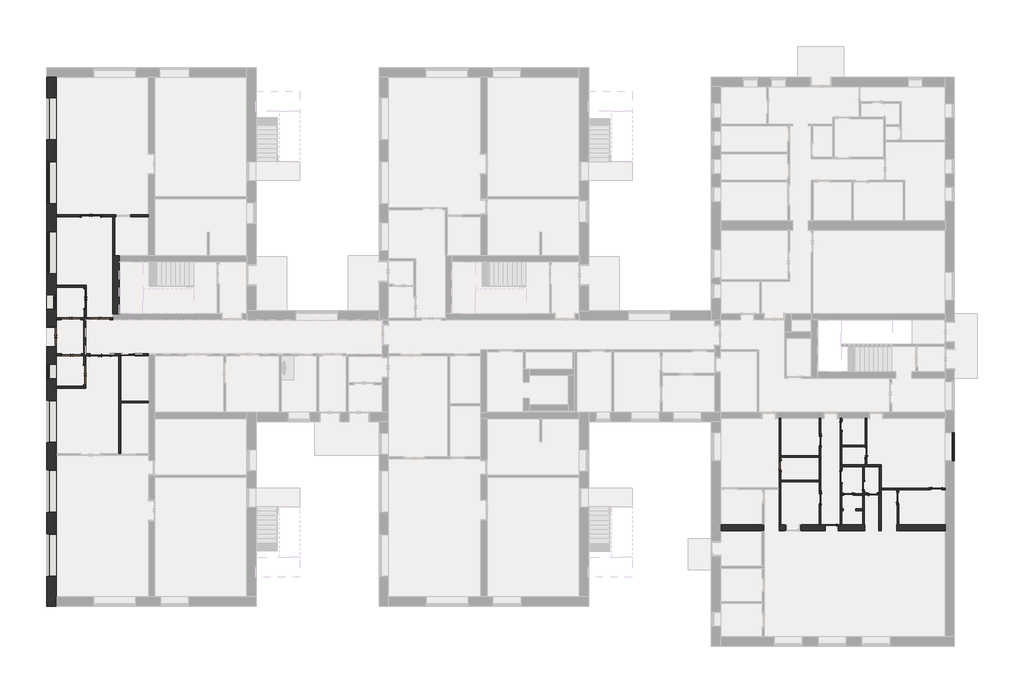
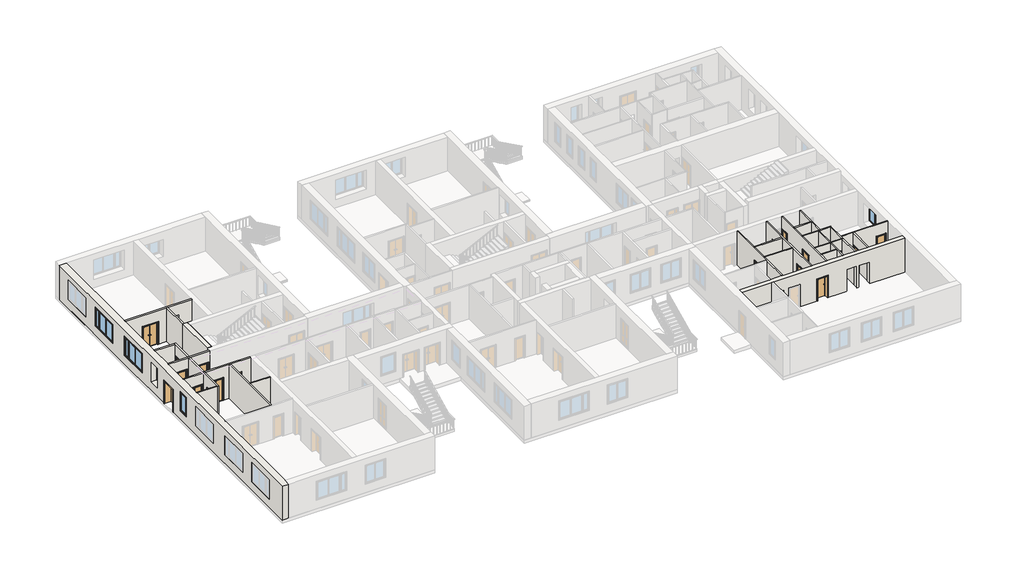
# One storey, part 2 of 10: 31 walls, 21 doors, 5 windows.
"""IFC4 building model written with IfcOpenShell, lengths in millimetres."""

from ifc_helpers import new_model, si_unit, frame, origin, origin_with_axes, place, context, project, spatial, polyline, outline, extrude, faceted_brep, transform, mapped, element, save
from components import door_6cda5d05, door_47037448, door_88bcb1ed, door_bac351b1, door_4404b6de, door_7940dafd, door_87bbec6c, door_8e71c86a, door_77306523, window_630a9bb4, window_e44eff39, window_310a172f

model = new_model("IFC4")

# Units and contexts
model_context = context("Model", 3, world=origin())
ifc_project = project(units=[si_unit("LENGTHUNIT", "METRE", prefix="MILLI")], contexts=[model_context])

# Site, building, storey
site = spatial("IfcSite", under=ifc_project)
building = spatial("IfcBuilding", under=site)
storey = spatial("IfcBuildingStorey", under=building, Name="1 этаж", Elevation=0.0)

# Doors
placement = place(None, origin())
door_shape = door_6cda5d05(model_context)
element("IfcDoor", 1, ObjectType="Наружная дверь 2-Навесная - Один проем наружу с порогом - 31173-2003 : ДСН ДКН М2 2100-1300 ГОСТ 31173-2003", at=placement, inside=storey, context=model_context, shape_type="MappedRepresentation", body=[
    mapped(door_shape, transform((-35569.8240021, 13007.1370105, 0.0), x_axis=(-1.0, 0.0, 0.0), y_axis=(0.0, -1.0, 0.0), z_axis=(0.0, 0.0, 1.0))),
])
element("IfcDoor", 2, ObjectType="Наружная дверь 2-Навесная - Один проем наружу с порогом - 31173-2003 : ДСН ДКН М2 2100-1300 ГОСТ 31173-2003", at=placement, inside=storey, context=model_context, shape_type="MappedRepresentation", body=[
    mapped(door_shape, transform((-35944.8240021, 7612.1370105, 0.0), x_axis=(0.0, 1.0, 0.0), y_axis=(-1.0, 0.0, 0.0), z_axis=(0.0, 0.0, 1.0))),
])
element("IfcDoor", 3, ObjectType="Наружная дверь 2-Навесная - Один проем наружу с порогом - 31173-2003 : ДСН ДКН М2 2100-1300 ГОСТ 31173-2003", at=placement, inside=storey, context=model_context, shape_type="MappedRepresentation", body=[
    mapped(door_shape, transform((-36859.8240021, 6307.1370105, 0.0), x_axis=(-1.0, 0.0, 0.0), y_axis=(0.0, -1.0, 0.0), z_axis=(0.0, 0.0, 1.0))),
])
element("IfcDoor", 4, ObjectType="Наружная дверь 2-Навесная - Один проем наружу с порогом - 31173-2003 : ДСН ДКН М2 2100-1300 ГОСТ 31173-2003", at=placement, inside=storey, context=model_context, shape_type="MappedRepresentation", body=[
    mapped(door_shape, transform((-34972.3240021, 6307.1370105, 0.0), x_axis=(-1.0, 0.0, 0.0), y_axis=(0.0, -1.0, 0.0), z_axis=(0.0, 0.0, 1.0))),
])
element("IfcDoor", 5, ObjectType="Наружная дверь 2-Навесная - Один проем наружу с порогом - 31173-2003 : ДСН ДКН М2 2100-1300 ГОСТ 31173-2003", at=placement, inside=storey, context=model_context, shape_type="MappedRepresentation", body=[
    mapped(door_shape, transform((-36837.3240021, 3962.1370105, 0.0), x_axis=(1.0, 0.0, 0.0), y_axis=(0.0, 1.0, 0.0), z_axis=(0.0, 0.0, 1.0))),
])
element("IfcDoor", 6, ObjectType="Наружная дверь 2-Навесная - Один проем наружу с порогом - 31173-2003 : ДСН ДКН М2 2100-1300 ГОСТ 31173-2003", at=placement, inside=storey, context=model_context, shape_type="MappedRepresentation", body=[
    mapped(door_shape, transform((-35974.8240021, 2637.1370105, 0.0), x_axis=(0.0, 1.0, 0.0), y_axis=(-1.0, 0.0, 0.0), z_axis=(0.0, 0.0, 1.0))),
])
door_2_shape = door_47037448(model_context)
element("IfcDoor", 7, ObjectType="Наружная дверь 2-Навесная - Один проем наружу с порогом - 31173-2003 : ДСН ДКН М2 2100-1300 ГОСТ 31173-2003", at=placement, inside=storey, context=model_context, shape_type="MappedRepresentation", body=[
    mapped(door_2_shape, transform((-38137.3240021, 5134.6370105, 0.0), x_axis=(0.0, 1.0, 0.0), y_axis=(-1.0, 0.0, 0.0), z_axis=(0.0, 0.0, 1.0))),
])
door_3_shape = door_88bcb1ed(model_context)
element("IfcDoor", 8, ObjectType="Наружная дверь 2-Навесная - Один проем наружу с порогом - 31173-2003 : ДСН ДКН М2 2100-1300 ГОСТ 31173-2003", at=placement, inside=storey, context=model_context, shape_type="MappedRepresentation", body=[
    mapped(door_3_shape, transform((-34974.8240021, 3957.1370105, 0.0), x_axis=(1.0, 0.0, 0.0), y_axis=(0.0, 1.0, 0.0), z_axis=(0.0, 0.0, 1.0))),
])
door_4_shape = door_bac351b1(model_context)
element("IfcDoor", 9, ObjectType="Внутренняя дверь 1-Навесная - 30970-2002 : ДПВ Г Б Л 2100-870 ГОСТ 30970-2002", at=placement, inside=storey, context=model_context, shape_type="MappedRepresentation", body=[
    mapped(door_4_shape, transform((-33139.8240021, 3948.1370105, 0.0), x_axis=(1.0, 0.0, 0.0), y_axis=(0.0, 1.0, 0.0), z_axis=(0.0, 0.0, 1.0))),
])
door_5_shape = door_4404b6de(model_context)
element("IfcDoor", 10, ObjectType="Внутренняя дверь 1-Навесная - 6629-88 : ДГ 21-7  ГОСТ 6629-88", at=placement, inside=storey, context=model_context, shape_type="MappedRepresentation", body=[
    mapped(door_5_shape, transform((9322.6759979, -3265.3629895, 0.0), x_axis=(0.0, 1.0, 0.0), y_axis=(-1.0, 0.0, 0.0), z_axis=(0.0, 0.0, 1.0))),
])
element("IfcDoor", 11, ObjectType="Внутренняя дверь 1-Навесная - 6629-88 : ДГ 21-7  ГОСТ 6629-88", at=placement, inside=storey, context=model_context, shape_type="MappedRepresentation", body=[
    mapped(door_5_shape, transform((14757.6759979, -4605.3629895, 0.0), x_axis=(0.0, 1.0, 0.0), y_axis=(-1.0, 0.0, 0.0), z_axis=(0.0, 0.0, 1.0))),
])
door_6_shape = door_7940dafd(model_context)
element("IfcDoor", 12, ObjectType="Внутренняя дверь 1-Навесная - 6629-88 : ДГ 21-8  ГОСТ 6629-88", at=placement, inside=storey, context=model_context, shape_type="MappedRepresentation", body=[
    mapped(door_6_shape, transform((11917.6759979, -1605.3629895, 0.0), x_axis=(0.0, -1.0, 0.0), y_axis=(1.0, 0.0, 0.0), z_axis=(0.0, 0.0, 1.0))),
])
element("IfcDoor", 13, ObjectType="Внутренняя дверь 1-Навесная - 6629-88 : ДГ 21-8  ГОСТ 6629-88", at=placement, inside=storey, context=model_context, shape_type="MappedRepresentation", body=[
    mapped(door_6_shape, transform((11917.6759979, -5365.3629895, 0.0), x_axis=(0.0, -1.0, 0.0), y_axis=(1.0, 0.0, 0.0), z_axis=(0.0, 0.0, 1.0))),
])
element("IfcDoor", 14, ObjectType="Внутренняя дверь 1-Навесная - 6629-88 : ДГ 21-8  ГОСТ 6629-88", at=placement, inside=storey, context=model_context, shape_type="MappedRepresentation", body=[
    mapped(door_6_shape, transform((16987.6759979, -5365.3629895, 0.0), x_axis=(0.0, 1.0, 0.0), y_axis=(-1.0, 0.0, 0.0), z_axis=(0.0, 0.0, 1.0))),
])
element("IfcDoor", 15, ObjectType="Внутренняя дверь 1-Навесная - 6629-88 : ДГ 21-8  ГОСТ 6629-88", at=placement, inside=storey, context=model_context, shape_type="MappedRepresentation", body=[
    mapped(door_6_shape, transform((19462.6759979, -4765.3629895, 0.0), x_axis=(1.0, 0.0, 0.0), y_axis=(0.0, 1.0, 0.0), z_axis=(0.0, 0.0, 1.0))),
])
door_7_shape = door_87bbec6c(model_context)
element("IfcDoor", 16, ObjectType="Внутренняя дверь 1-Навесная - 6629-88 : ДГ 21-7  ГОСТ 6629-88", at=placement, inside=storey, context=model_context, shape_type="MappedRepresentation", body=[
    mapped(door_7_shape, transform((13287.6759979, -645.3629895, 0.0), x_axis=(0.0, -1.0, 0.0), y_axis=(1.0, 0.0, 0.0), z_axis=(0.0, 0.0, 1.0))),
])
element("IfcDoor", 17, ObjectType="Внутренняя дверь 1-Навесная - 6629-88 : ДГ 21-7  ГОСТ 6629-88", at=placement, inside=storey, context=model_context, shape_type="MappedRepresentation", body=[
    mapped(door_7_shape, transform((14907.6759979, -2405.3629895, 0.0), x_axis=(0.0, 1.0, 0.0), y_axis=(-1.0, 0.0, 0.0), z_axis=(0.0, 0.0, 1.0))),
])
element("IfcDoor", 18, ObjectType="Внутренняя дверь 1-Навесная - 6629-88 : ДГ 21-7  ГОСТ 6629-88", at=placement, inside=storey, context=model_context, shape_type="MappedRepresentation", body=[
    mapped(door_7_shape, transform((15317.6759979, -5105.3629895, 0.0), x_axis=(1.0, 0.0, 0.0), y_axis=(0.0, 1.0, 0.0), z_axis=(0.0, 0.0, 1.0))),
])
element("IfcDoor", 19, ObjectType="Внутренняя дверь 1-Навесная - 6629-88 : ДГ 21-7  ГОСТ 6629-88", at=placement, inside=storey, context=model_context, shape_type="MappedRepresentation", body=[
    mapped(door_7_shape, transform((13787.6759979, -5125.3629895, 0.0), x_axis=(-1.0, 0.0, 0.0), y_axis=(0.0, -1.0, 0.0), z_axis=(0.0, 0.0, 1.0))),
])
door_8_shape = door_8e71c86a(model_context)
element("IfcDoor", 20, ObjectType="Внутренняя дверь 1-Навесная - 6629-88 : ДГ 21-9  ГОСТ 6629-88", at=placement, inside=storey, context=model_context, shape_type="MappedRepresentation", body=[
    mapped(door_8_shape, transform((13287.6759979, -3945.3629895, 0.0), x_axis=(0.0, -1.0, 0.0), y_axis=(1.0, 0.0, 0.0), z_axis=(0.0, 0.0, 1.0))),
])
door_9_shape = door_77306523(model_context)
element("IfcDoor", 21, ObjectType="Внутренняя дверь 1-Навесная - 6629-88 : ДГ 21-9  ГОСТ 6629-88", at=placement, inside=storey, context=model_context, shape_type="MappedRepresentation", body=[
    mapped(door_9_shape, transform((12667.6759979, -7305.3629895, 0.0), x_axis=(-1.0, 0.0, 0.0), y_axis=(0.0, -1.0, 0.0), z_axis=(0.0, 0.0, 1.0))),
])

# Walls
element("IfcWall", 22, ObjectType="ADSK_Внутренняя_Кирпич_610", at=placement, inside=storey, context=model_context, shape_type="Brep", body=[
    faceted_brep([(-38442.3240021, 22034.6370105, 3200.0), (-38442.3240021, 22034.6370105, 0.0), (-38442.3240021, 5804.6370105, 0.0), (-38442.3240021, 5804.6370105, 2120.0), (-38442.3240021, 4464.6370105, 2120.0), (-38442.3240021, 4464.6370105, 0.0), (-38442.3240021, -12415.3629895, 0.0), (-38442.3240021, -12415.3629895, 3200.0), (-38442.3240021, 2412.1370105, 800.0), (-38442.3240021, 3342.1370105, 800.0), (-38442.3240021, 3342.1370105, 2620.0), (-38442.3240021, 2412.1370105, 2620.0), (-38442.3240021, 7857.1370105, 800.0), (-38442.3240021, 7857.1370105, 2620.0), (-38442.3240021, 6927.1370105, 2620.0), (-38442.3240021, 6927.1370105, 800.0), (-38442.3240021, -10455.3629895, 800.0), (-38442.3240021, -7725.3629895, 800.0), (-38442.3240021, -7725.3629895, 2620.0), (-38442.3240021, -10455.3629895, 2620.0), (-38442.3240021, -3565.3629895, 800.0), (-38442.3240021, -3565.3629895, 2620.0), (-38442.3240021, -6295.3629895, 2620.0), (-38442.3240021, -6295.3629895, 800.0), (-38442.3240021, 982.1370105, 800.0), (-38442.3240021, 982.1370105, 2620.0), (-38442.3240021, -1747.8629895, 2620.0), (-38442.3240021, -1747.8629895, 800.0), (-38442.3240021, 11977.1370105, 800.0), (-38442.3240021, 11977.1370105, 2620.0), (-38442.3240021, 9247.1370105, 2620.0), (-38442.3240021, 9247.1370105, 800.0), (-38442.3240021, 16532.1370105, 800.0), (-38442.3240021, 16532.1370105, 2620.0), (-38442.3240021, 13802.1370105, 2620.0), (-38442.3240021, 13802.1370105, 800.0), (-38442.3240021, 17954.6370105, 800.0), (-38442.3240021, 20684.6370105, 800.0), (-38442.3240021, 20684.6370105, 2620.0), (-38442.3240021, 17954.6370105, 2620.0), (-37832.3240021, 22034.6370105, 0.0), (-37832.3240021, 22034.6370105, 3200.0), (-37832.3240021, 13069.6370105, 3200.0), (-37832.3240021, 12944.6370105, 3200.0), (-37832.3240021, 8474.6370105, 3200.0), (-37832.3240021, 8349.6370105, 3200.0), (-37832.3240021, 6369.6370105, 3200.0), (-37832.3240021, 6244.6370105, 3200.0), (-37832.3240021, 4024.6370105, 3200.0), (-37832.3240021, 3899.6370105, 3200.0), (-37832.3240021, 1899.6370105, 3200.0), (-37832.3240021, 1774.6370105, 3200.0), (-37832.3240021, -11805.3629895, 3200.0), (-37832.3240021, -12415.3629895, 3200.0), (-37832.3240021, -12415.3629895, 0.0), (-37832.3240021, -11805.3629895, 0.0), (-37832.3240021, 1774.6370105, 0.0), (-37832.3240021, 1899.6370105, 0.0), (-37832.3240021, 3899.6370105, 0.0), (-37832.3240021, 4024.6370105, 0.0), (-37832.3240021, 4464.6370105, 0.0), (-37832.3240021, 4464.6370105, 2120.0), (-37832.3240021, 5804.6370105, 2120.0), (-37832.3240021, 5804.6370105, 0.0), (-37832.3240021, 6244.6370105, 0.0), (-37832.3240021, 6369.6370105, 0.0), (-37832.3240021, 8349.6370105, 0.0), (-37832.3240021, 8474.6370105, 0.0), (-37832.3240021, 12944.6370105, 0.0), (-37832.3240021, 13069.6370105, 0.0), (-37832.3240021, 2412.1370105, 800.0), (-37832.3240021, 2412.1370105, 2620.0), (-37832.3240021, 3342.1370105, 2620.0), (-37832.3240021, 3342.1370105, 800.0), (-37832.3240021, 7857.1370105, 800.0), (-37832.3240021, 6927.1370105, 800.0), (-37832.3240021, 6927.1370105, 2620.0), (-37832.3240021, 7857.1370105, 2620.0), (-37832.3240021, -10455.3629895, 800.0), (-37832.3240021, -10455.3629895, 2620.0), (-37832.3240021, -7725.3629895, 2620.0), (-37832.3240021, -7725.3629895, 800.0), (-37832.3240021, -3565.3629895, 800.0), (-37832.3240021, -6295.3629895, 800.0), (-37832.3240021, -6295.3629895, 2620.0), (-37832.3240021, -3565.3629895, 2620.0), (-37832.3240021, 982.1370105, 800.0), (-37832.3240021, -1747.8629895, 800.0), (-37832.3240021, -1747.8629895, 2620.0), (-37832.3240021, 982.1370105, 2620.0), (-37832.3240021, 11977.1370105, 800.0), (-37832.3240021, 9247.1370105, 800.0), (-37832.3240021, 9247.1370105, 2620.0), (-37832.3240021, 11977.1370105, 2620.0), (-37832.3240021, 16532.1370105, 800.0), (-37832.3240021, 13802.1370105, 800.0), (-37832.3240021, 13802.1370105, 2620.0), (-37832.3240021, 16532.1370105, 2620.0), (-37832.3240021, 17954.6370105, 800.0), (-37832.3240021, 17954.6370105, 2620.0), (-37832.3240021, 20684.6370105, 2620.0), (-37832.3240021, 20684.6370105, 800.0)], [[[0, 1, 2, 3, 4, 5, 6, 7], [8, 9, 10, 11], [12, 13, 14, 15], [16, 17, 18, 19], [20, 21, 22, 23], [24, 25, 26, 27], [28, 29, 30, 31], [32, 33, 34, 35], [36, 37, 38, 39]], [[40, 41, 42, 43, 44, 45, 46, 47, 48, 49, 50, 51, 52, 53, 54, 55, 56, 57, 58, 59, 60, 61, 62, 63, 64, 65, 66, 67, 68, 69], [70, 71, 72, 73], [74, 75, 76, 77], [78, 79, 80, 81], [82, 83, 84, 85], [86, 87, 88, 89], [90, 91, 92, 93], [94, 95, 96, 97], [98, 99, 100, 101]], [[1, 40, 69, 68, 67, 66, 65, 64, 63, 2]], [[54, 6, 5, 60, 59, 58, 57, 56, 55]], [[1, 0, 41, 40]], [[7, 6, 54, 53]], [[62, 3, 2, 63]], [[3, 62, 61, 4]], [[4, 61, 60, 5]], [[71, 70, 8, 11]], [[72, 71, 11, 10]], [[73, 72, 10, 9]], [[70, 73, 9, 8]], [[13, 12, 74, 77]], [[14, 13, 77, 76]], [[15, 14, 76, 75]], [[12, 15, 75, 74]], [[79, 78, 16, 19]], [[80, 79, 19, 18]], [[81, 80, 18, 17]], [[78, 81, 17, 16]], [[21, 20, 82, 85]], [[22, 21, 85, 84]], [[23, 22, 84, 83]], [[20, 23, 83, 82]], [[25, 24, 86, 89]], [[26, 25, 89, 88]], [[27, 26, 88, 87]], [[24, 27, 87, 86]], [[29, 28, 90, 93]], [[30, 29, 93, 92]], [[31, 30, 92, 91]], [[28, 31, 91, 90]], [[33, 32, 94, 97]], [[34, 33, 97, 96]], [[35, 34, 96, 95]], [[32, 35, 95, 94]], [[99, 98, 36, 39]], [[100, 99, 39, 38]], [[101, 100, 38, 37]], [[98, 101, 37, 36]], [[0, 7, 53, 52, 51, 50, 49, 48, 47, 46, 45, 44, 43, 42, 41]]]),
])
element("IfcWall", 23, ObjectType="ADSK_Внутренняя_Кирпич_380+20х2", at=placement, inside=storey, context=model_context, shape_type="Brep", body=[
    faceted_brep([(-33712.3240021, 6644.6370105, 0.0), (-33712.3240021, 10004.6370105, 0.0), (-33712.3240021, 10424.6370105, 0.0), (-33712.3240021, 10424.6370105, 3200.0), (-33712.3240021, 10004.6370105, 3200.0), (-33712.3240021, 6644.6370105, 3200.0), (-34132.3240021, 6644.6370105, 0.0), (-34132.3240021, 6644.6370105, 3200.0), (-34132.3240021, 10424.6370105, 3200.0), (-34132.3240021, 10424.6370105, 0.0), (-34007.3240021, 10424.6370105, 0.0), (-33712.7240021, 6644.6370105, 3200.0), (-34007.3240021, 10424.6370105, 3200.0), (-33712.7240021, 10424.6370105, 3200.0), (-33712.7240021, 10004.6370105, 3200.0)], [[[0, 1, 2, 3, 4, 5]], [[6, 7, 8, 9]], [[2, 1, 0, 6, 9, 10]], [[0, 5, 11, 7, 6]], [[3, 2, 10, 9, 8, 12, 13]], [[5, 4, 3, 13, 14, 11]], [[13, 12, 8, 7, 11, 14]]]),
])
element("IfcWall", 24, ObjectType="ADSK_Внутренняя_Перегородка_135", at=placement, inside=storey, context=model_context, shape_type="Brep", body=[
    faceted_brep([(-33632.3240021, -2470.3629895, 0.0), (-33632.3240021, 829.6370105, 0.0), (-33632.3240021, 929.6370105, 0.0), (-33632.3240021, 3889.6370105, 0.0), (-33632.3240021, 3889.6370105, 3200.0), (-33632.3240021, 929.6370105, 3200.0), (-33632.3240021, 829.6370105, 3200.0), (-33632.3240021, -2470.3629895, 3200.0), (-33767.3240021, -2470.3629895, 0.0), (-33767.3240021, -2470.3629895, 3200.0), (-33767.3240021, 3889.6370105, 3200.0), (-33767.3240021, 3889.6370105, 0.0)], [[[0, 1, 2, 3, 4, 5, 6, 7]], [[8, 9, 10, 11]], [[3, 2, 1, 0, 8, 11]], [[0, 7, 9, 8]], [[4, 3, 11, 10]], [[7, 6, 5, 4, 10, 9]]]),
])
element("IfcWall", 25, ObjectType="ADSK_Внутренняя_Перегородка_100", at=placement, inside=storey, context=model_context, shape_type="SweptSolid", body=[
    extrude(outline(polyline([(-33632.3240021, 929.6370105), (-31812.3240021, 929.6370105), (-31812.3240021, 829.6370105), (-33632.3240021, 829.6370105), (-33632.3240021, 929.6370105)])), origin_with_axes(), (0.0, 0.0, 1.0), 3200.0),
])
element("IfcWall", 26, ObjectType="ADSK_Внутренняя_Перегородка_135", at=placement, inside=storey, context=model_context, shape_type="Brep", body=[
    faceted_brep([(-31812.3240021, 3889.6370105, 0.0), (-31812.3240021, 3889.6370105, 3200.0), (-33632.3240021, 3889.6370105, 3200.0), (-33767.3240021, 3889.6370105, 3200.0), (-35912.3240021, 3889.6370105, 3200.0), (-35912.3240021, 3889.6370105, 0.0), (-35644.8240021, 3889.6370105, 0.0), (-35644.8240021, 3889.6370105, 2120.0), (-34304.8240021, 3889.6370105, 2120.0), (-34304.8240021, 3889.6370105, 0.0), (-33767.3240021, 3889.6370105, 0.0), (-33632.3240021, 3889.6370105, 0.0), (-33624.8240021, 3889.6370105, 0.0), (-33624.8240021, 3889.6370105, 2150.0), (-32654.8240021, 3889.6370105, 2150.0), (-32654.8240021, 3889.6370105, 0.0), (-31812.3240021, 4024.6370105, 3200.0), (-31812.3240021, 4024.6370105, 0.0), (-32654.8240021, 4024.6370105, 0.0), (-32654.8240021, 4024.6370105, 2150.0), (-33624.8240021, 4024.6370105, 2150.0), (-33624.8240021, 4024.6370105, 0.0), (-34304.8240021, 4024.6370105, 0.0), (-34304.8240021, 4024.6370105, 2120.0), (-35644.8240021, 4024.6370105, 2120.0), (-35644.8240021, 4024.6370105, 0.0), (-35897.3240021, 4024.6370105, 0.0), (-35912.3240021, 4024.6370105, 0.0), (-35912.3240021, 4024.6370105, 3200.0), (-35897.3240021, 4024.6370105, 3200.0)], [[[0, 1, 2, 3, 4, 5, 6, 7, 8, 9, 10, 11, 12, 13, 14, 15]], [[16, 17, 18, 19, 20, 21, 22, 23, 24, 25, 26, 27, 28, 29]], [[17, 0, 15, 18]], [[5, 27, 26, 25, 6]], [[9, 22, 21, 12, 11, 10]], [[1, 0, 17, 16]], [[5, 4, 28, 27]], [[8, 23, 22, 9]], [[23, 8, 7, 24]], [[24, 7, 6, 25]], [[14, 19, 18, 15]], [[19, 14, 13, 20]], [[20, 13, 12, 21]], [[4, 3, 2, 1, 16, 29, 28]]]),
])
element("IfcWall", 27, ObjectType="ADSK_Внутренняя_Перегородка_125", at=placement, inside=storey, context=model_context, shape_type="Brep", body=[
    faceted_brep([(-35912.3240021, 4024.6370105, 0.0), (-35912.3240021, 4024.6370105, 3200.0), (-35912.3240021, 3889.6370105, 3200.0), (-35912.3240021, 1774.6370105, 3200.0), (-35912.3240021, 1774.6370105, 0.0), (-35912.3240021, 1967.1370105, 0.0), (-35912.3240021, 1967.1370105, 2120.0), (-35912.3240021, 3307.1370105, 2120.0), (-35912.3240021, 3307.1370105, 0.0), (-35912.3240021, 3889.6370105, 0.0), (-36037.3240021, 4024.6370105, 3200.0), (-36037.3240021, 4024.6370105, 0.0), (-36037.3240021, 3899.6370105, 0.0), (-36037.3240021, 3307.1370105, 0.0), (-36037.3240021, 3307.1370105, 2120.0), (-36037.3240021, 1967.1370105, 2120.0), (-36037.3240021, 1967.1370105, 0.0), (-36037.3240021, 1899.6370105, 0.0), (-36037.3240021, 1774.6370105, 0.0), (-36037.3240021, 1774.6370105, 3200.0), (-36037.3240021, 1899.6370105, 3200.0), (-36037.3240021, 3899.6370105, 3200.0), (-36022.3240021, 4024.6370105, 0.0), (-36022.3240021, 4024.6370105, 3200.0)], [[[0, 1, 2, 3, 4, 5, 6, 7, 8, 9]], [[10, 11, 12, 13, 14, 15, 16, 17, 18, 19, 20, 21]], [[4, 18, 17, 16, 5]], [[11, 22, 0, 9, 8, 13, 12]], [[1, 0, 22, 11, 10, 23]], [[4, 3, 19, 18]], [[7, 14, 13, 8]], [[14, 7, 6, 15]], [[15, 6, 5, 16]], [[3, 2, 1, 23, 10, 21, 20, 19]]]),
])
element("IfcWall", 28, ObjectType="ADSK_Внутренняя_Перегородка_125", at=placement, inside=storey, context=model_context, shape_type="SweptSolid", body=[
    extrude(outline(polyline([(0.0, -36037.3240021), (3200.0, -36037.3240021), (3200.0, -37832.3240021), (0.0, -37832.3240021), (0.0, -37507.3240021), (2120.0, -37507.3240021), (2120.0, -36167.3240021), (0.0, -36167.3240021), (0.0, -36037.3240021)])), frame((0.0, 3899.6370105, 0.0), z_axis=(0.0, 1.0, 0.0), x_axis=(0.0, 0.0, 1.0)), (0.0, 0.0, 1.0), 125.0),
])
element("IfcWall", 29, ObjectType="ADSK_Внутренняя_Перегородка_125", at=placement, inside=storey, context=model_context, shape_type="SweptSolid", body=[
    extrude(outline(polyline([(-37832.3240021, 1899.6370105), (-36037.3240021, 1899.6370105), (-36037.3240021, 1774.6370105), (-37832.3240021, 1774.6370105), (-37832.3240021, 1899.6370105)])), origin_with_axes(), (0.0, 0.0, 1.0), 3200.0),
])
element("IfcWall", 30, ObjectType="ADSK_Внутренняя_Перегородка_125", at=placement, inside=storey, context=model_context, shape_type="Brep", body=[
    faceted_brep([(-35897.3240021, 4024.6370105, 0.0), (-35897.3240021, 6244.6370105, 0.0), (-35897.3240021, 6244.6370105, 3200.0), (-35897.3240021, 4024.6370105, 3200.0), (-36022.3240021, 4024.6370105, 0.0), (-36022.3240021, 4024.6370105, 3200.0), (-36022.3240021, 6244.6370105, 3200.0), (-36022.3240021, 6244.6370105, 0.0), (-35912.3240021, 4024.6370105, 0.0), (-35912.3240021, 4024.6370105, 3200.0)], [[[0, 1, 2, 3]], [[4, 5, 6, 7]], [[1, 0, 8, 4, 7]], [[0, 3, 9, 5, 4, 8]], [[2, 1, 7, 6]], [[3, 2, 6, 5, 9]]]),
])
element("IfcWall", 31, ObjectType="ADSK_Внутренняя_Перегородка_75_25x2", at=placement, inside=storey, context=model_context, shape_type="Brep", body=[
    faceted_brep([(-37832.3240021, 6244.6370105, 3200.0), (-37832.3240021, 6244.6370105, 0.0), (-37529.8240021, 6244.6370105, 0.0), (-37529.8240021, 6244.6370105, 2120.0), (-36189.8240021, 6244.6370105, 2120.0), (-36189.8240021, 6244.6370105, 0.0), (-36022.3240021, 6244.6370105, 0.0), (-35897.3240021, 6244.6370105, 0.0), (-35642.3240021, 6244.6370105, 0.0), (-35642.3240021, 6244.6370105, 2120.0), (-34302.3240021, 6244.6370105, 2120.0), (-34302.3240021, 6244.6370105, 0.0), (-34132.3240021, 6244.6370105, 0.0), (-34132.3240021, 6244.6370105, 3200.0), (-35897.3240021, 6244.6370105, 3200.0), (-36022.3240021, 6244.6370105, 3200.0), (-37832.3240021, 6369.6370105, 0.0), (-37832.3240021, 6369.6370105, 3200.0), (-36007.3240021, 6369.6370105, 3200.0), (-35882.3240021, 6369.6370105, 3200.0), (-34132.3240021, 6369.6370105, 3200.0), (-34132.3240021, 6369.6370105, 0.0), (-34302.3240021, 6369.6370105, 0.0), (-34302.3240021, 6369.6370105, 2120.0), (-35642.3240021, 6369.6370105, 2120.0), (-35642.3240021, 6369.6370105, 0.0), (-35882.3240021, 6369.6370105, 0.0), (-36007.3240021, 6369.6370105, 0.0), (-36189.8240021, 6369.6370105, 0.0), (-36189.8240021, 6369.6370105, 2120.0), (-37529.8240021, 6369.6370105, 2120.0), (-37529.8240021, 6369.6370105, 0.0)], [[[0, 1, 2, 3, 4, 5, 6, 7, 8, 9, 10, 11, 12, 13, 14, 15]], [[16, 17, 18, 19, 20, 21, 22, 23, 24, 25, 26, 27, 28, 29, 30, 31]], [[1, 16, 31, 2]], [[21, 12, 11, 22]], [[5, 28, 27, 26, 25, 8, 7, 6]], [[1, 0, 17, 16]], [[13, 12, 21, 20]], [[30, 3, 2, 31]], [[3, 30, 29, 4]], [[4, 29, 28, 5]], [[24, 9, 8, 25]], [[9, 24, 23, 10]], [[10, 23, 22, 11]], [[0, 15, 14, 13, 20, 19, 18, 17]]]),
])
element("IfcWall", 32, ObjectType="ADSK_Внутренняя_Перегородка_75_25x2", at=placement, inside=storey, context=model_context, shape_type="Brep", body=[
    faceted_brep([(-35882.3240021, 6369.6370105, 3200.0), (-35882.3240021, 6369.6370105, 0.0), (-35882.3240021, 6942.1370105, 0.0), (-35882.3240021, 6942.1370105, 2120.0), (-35882.3240021, 8282.1370105, 2120.0), (-35882.3240021, 8282.1370105, 0.0), (-35882.3240021, 8474.6370105, 0.0), (-35882.3240021, 8474.6370105, 3200.0), (-36007.3240021, 6369.6370105, 0.0), (-36007.3240021, 6369.6370105, 3200.0), (-36007.3240021, 8349.6370105, 3200.0), (-36007.3240021, 8474.6370105, 3200.0), (-36007.3240021, 8474.6370105, 0.0), (-36007.3240021, 8349.6370105, 0.0), (-36007.3240021, 8282.1370105, 0.0), (-36007.3240021, 8282.1370105, 2120.0), (-36007.3240021, 6942.1370105, 2120.0), (-36007.3240021, 6942.1370105, 0.0)], [[[0, 1, 2, 3, 4, 5, 6, 7]], [[8, 9, 10, 11, 12, 13, 14, 15, 16, 17]], [[1, 8, 17, 2]], [[12, 6, 5, 14, 13]], [[1, 0, 9, 8]], [[7, 6, 12, 11]], [[4, 15, 14, 5]], [[15, 4, 3, 16]], [[16, 3, 2, 17]], [[0, 7, 11, 10, 9]]]),
])
element("IfcWall", 33, ObjectType="ADSK_Внутренняя_Перегородка_75_25x2", at=placement, inside=storey, context=model_context, shape_type="SweptSolid", body=[
    extrude(outline(polyline([(-37832.3240021, 8474.6370105), (-36007.3240021, 8474.6370105), (-36007.3240021, 8349.6370105), (-37832.3240021, 8349.6370105), (-37832.3240021, 8474.6370105)])), origin_with_axes(), (0.0, 0.0, 1.0), 3200.0),
])
element("IfcWall", 34, ObjectType="ADSK_Внутренняя_Перегородка_75_25x2", at=placement, inside=storey, context=model_context, shape_type="Brep", body=[
    faceted_brep([(-37832.3240021, 12944.6370105, 3200.0), (-37832.3240021, 12944.6370105, 0.0), (-36239.8240021, 12944.6370105, 0.0), (-36239.8240021, 12944.6370105, 2120.0), (-34899.8240021, 12944.6370105, 2120.0), (-34899.8240021, 12944.6370105, 0.0), (-34132.3240021, 12944.6370105, 0.0), (-34007.3240021, 12944.6370105, 0.0), (-33954.8240021, 12944.6370105, 0.0), (-33954.8240021, 12944.6370105, 2150.0), (-32984.8240021, 12944.6370105, 2150.0), (-32984.8240021, 12944.6370105, 0.0), (-31832.3240021, 12944.6370105, 0.0), (-31832.3240021, 12944.6370105, 3200.0), (-34007.3240021, 12944.6370105, 3200.0), (-34132.3240021, 12944.6370105, 3200.0), (-37832.3240021, 13069.6370105, 0.0), (-37832.3240021, 13069.6370105, 3200.0), (-31832.3240021, 13069.6370105, 3200.0), (-31832.3240021, 13069.6370105, 0.0), (-32984.8240021, 13069.6370105, 0.0), (-32984.8240021, 13069.6370105, 2150.0), (-33954.8240021, 13069.6370105, 2150.0), (-33954.8240021, 13069.6370105, 0.0), (-34899.8240021, 13069.6370105, 0.0), (-34899.8240021, 13069.6370105, 2120.0), (-36239.8240021, 13069.6370105, 2120.0), (-36239.8240021, 13069.6370105, 0.0)], [[[0, 1, 2, 3, 4, 5, 6, 7, 8, 9, 10, 11, 12, 13, 14, 15]], [[16, 17, 18, 19, 20, 21, 22, 23, 24, 25, 26, 27]], [[1, 16, 27, 2]], [[19, 12, 11, 20]], [[5, 24, 23, 8, 7, 6]], [[1, 0, 17, 16]], [[13, 12, 19, 18]], [[26, 3, 2, 27]], [[3, 26, 25, 4]], [[4, 25, 24, 5]], [[0, 15, 14, 13, 18, 17]], [[10, 21, 20, 11]], [[21, 10, 9, 22]], [[22, 9, 8, 23]]]),
])
element("IfcWall", 35, ObjectType="ADSK_Внутренняя_Перегородка_75_25x2", at=placement, inside=storey, context=model_context, shape_type="SweptSolid", body=[
    extrude(outline(polyline([(-34007.3240021, 12944.6370105), (-34007.3240021, 10424.6370105), (-34132.3240021, 10424.6370105), (-34132.3240021, 12944.6370105), (-34007.3240021, 12944.6370105)])), origin_with_axes(), (0.0, 0.0, 1.0), 3200.0),
])
element("IfcWall", 36, ObjectType="ADSK_Внутренняя_Перегородка_100", at=placement, inside=storey, context=model_context, shape_type="Brep", body=[
    faceted_brep([(11867.6759979, -175.3629895, 3200.0), (11867.6759979, -175.3629895, 0.0), (11867.6759979, -1200.3629895, 0.0), (11867.6759979, -1200.3629895, 2070.0), (11867.6759979, -2010.3629895, 2070.0), (11867.6759979, -2010.3629895, 0.0), (11867.6759979, -2615.3629895, 0.0), (11867.6759979, -2715.3629895, 0.0), (11867.6759979, -4195.3629895, 0.0), (11867.6759979, -4295.3629895, 0.0), (11867.6759979, -4960.3629895, 0.0), (11867.6759979, -4960.3629895, 2070.0), (11867.6759979, -5770.3629895, 2070.0), (11867.6759979, -5770.3629895, 0.0), (11867.6759979, -7115.3629895, 0.0), (11867.6759979, -7115.3629895, 3200.0), (11867.6759979, -4295.3629895, 3200.0), (11867.6759979, -4195.3629895, 3200.0), (11867.6759979, -2715.3629895, 3200.0), (11867.6759979, -2615.3629895, 3200.0), (11967.6759979, -175.3629895, 0.0), (11967.6759979, -175.3629895, 3200.0), (11967.6759979, -7115.3629895, 3200.0), (11967.6759979, -7115.3629895, 0.0), (11967.6759979, -5770.3629895, 0.0), (11967.6759979, -5770.3629895, 2070.0), (11967.6759979, -4960.3629895, 2070.0), (11967.6759979, -4960.3629895, 0.0), (11967.6759979, -2010.3629895, 0.0), (11967.6759979, -2010.3629895, 2070.0), (11967.6759979, -1200.3629895, 2070.0), (11967.6759979, -1200.3629895, 0.0)], [[[0, 1, 2, 3, 4, 5, 6, 7, 8, 9, 10, 11, 12, 13, 14, 15, 16, 17, 18, 19]], [[20, 21, 22, 23, 24, 25, 26, 27, 28, 29, 30, 31]], [[1, 20, 31, 2]], [[23, 14, 13, 24]], [[5, 28, 27, 10, 9, 8, 7, 6]], [[1, 0, 21, 20]], [[15, 14, 23, 22]], [[4, 29, 28, 5]], [[29, 4, 3, 30]], [[30, 3, 2, 31]], [[12, 25, 24, 13]], [[25, 12, 11, 26]], [[26, 11, 10, 27]], [[0, 19, 18, 17, 16, 15, 22, 21]]]),
])
element("IfcWall", 37, ObjectType="ADSK_Внутренняя_Перегородка_100", at=placement, inside=storey, context=model_context, shape_type="SweptSolid", body=[
    extrude(outline(polyline([(9372.6759979, -4195.3629895), (11867.6759979, -4195.3629895), (11867.6759979, -4295.3629895), (9372.6759979, -4295.3629895), (9372.6759979, -4195.3629895)])), origin_with_axes(), (0.0, 0.0, 1.0), 3200.0),
])
element("IfcWall", 38, ObjectType="ADSK_Внутренняя_Перегородка_100", at=placement, inside=storey, context=model_context, shape_type="Brep", body=[
    faceted_brep([(9272.6759979, -175.3629895, 3200.0), (9272.6759979, -175.3629895, 0.0), (9272.6759979, -2910.3629895, 0.0), (9272.6759979, -2910.3629895, 2070.0), (9272.6759979, -3620.3629895, 2070.0), (9272.6759979, -3620.3629895, 0.0), (9272.6759979, -4695.3629895, 0.0), (9272.6759979, -4795.3629895, 0.0), (9272.6759979, -7115.3629895, 0.0), (9272.6759979, -7115.3629895, 2070.0), (9272.6759979, -7115.3629895, 3200.0), (9272.6759979, -4795.3629895, 3200.0), (9272.6759979, -4695.3629895, 3200.0), (9372.6759979, -175.3629895, 0.0), (9372.6759979, -175.3629895, 3200.0), (9372.6759979, -2615.3629895, 3200.0), (9372.6759979, -2715.3629895, 3200.0), (9372.6759979, -4195.3629895, 3200.0), (9372.6759979, -4295.3629895, 3200.0), (9372.6759979, -7115.3629895, 3200.0), (9372.6759979, -7115.3629895, 0.0), (9372.6759979, -4295.3629895, 0.0), (9372.6759979, -4195.3629895, 0.0), (9372.6759979, -3620.3629895, 0.0), (9372.6759979, -3620.3629895, 2070.0), (9372.6759979, -2910.3629895, 2070.0), (9372.6759979, -2910.3629895, 0.0), (9372.6759979, -2715.3629895, 0.0), (9372.6759979, -2615.3629895, 0.0)], [[[0, 1, 2, 3, 4, 5, 6, 7, 8, 9, 10, 11, 12]], [[13, 14, 15, 16, 17, 18, 19, 20, 21, 22, 23, 24, 25, 26, 27, 28]], [[1, 13, 28, 27, 26, 2]], [[20, 8, 7, 6, 5, 23, 22, 21]], [[1, 0, 14, 13]], [[10, 9, 8, 20, 19]], [[25, 3, 2, 26]], [[3, 25, 24, 4]], [[4, 24, 23, 5]], [[0, 12, 11, 10, 19, 18, 17, 16, 15, 14]]]),
])
element("IfcWall", 39, ObjectType="ADSK_Внутренняя_Перегородка_100", at=placement, inside=storey, context=model_context, shape_type="SweptSolid", body=[
    extrude(outline(polyline([(11867.6759979, -2715.3629895), (9372.6759979, -2715.3629895), (9372.6759979, -2615.3629895), (11867.6759979, -2615.3629895), (11867.6759979, -2715.3629895)])), origin_with_axes(), (0.0, 0.0, 1.0), 3200.0),
])
element("IfcWall", 40, ObjectType="ADSK_Внутренняя_Кирпич_380", at=placement, inside=storey, context=model_context, shape_type="Brep", body=[
    faceted_brep([(16908.9259979, -7495.3629895, 2070.0), (16908.9259979, -7495.3629895, 0.0), (20057.6759979, -7495.3629895, 0.0), (20057.6759979, -7495.3629895, 3200.0), (8267.6759979, -7495.3629895, 3200.0), (8117.6759979, -7495.3629895, 3200.0), (5447.6759979, -7495.3629895, 3200.0), (5447.6759979, -7495.3629895, 0.0), (8117.6759979, -7495.3629895, 0.0), (8262.6759979, -7495.3629895, 0.0), (8262.6759979, -7495.3629895, 2070.0), (9272.6759979, -7495.3629895, 2070.0), (9272.6759979, -7495.3629895, 0.0), (9702.6759979, -7495.3629895, 0.0), (9702.6759979, -7495.3629895, 2070.0), (10612.6759979, -7495.3629895, 2070.0), (10612.6759979, -7495.3629895, 0.0), (12212.6759979, -7495.3629895, 0.0), (12212.6759979, -7495.3629895, 2070.0), (13122.6759979, -7495.3629895, 2070.0), (13122.6759979, -7495.3629895, 0.0), (14833.9259979, -7495.3629895, 0.0), (14833.9259979, -7495.3629895, 2070.0), (15743.9259979, -7495.3629895, 2070.0), (15743.9259979, -7495.3629895, 0.0), (15898.9259979, -7495.3629895, 0.0), (15898.9259979, -7495.3629895, 2070.0), (20057.6759979, -7115.3629895, 0.0), (17037.6759979, -7115.3629895, 0.0), (16937.6759979, -7115.3629895, 0.0), (16908.9259979, -7115.3629895, 0.0), (16908.9259979, -7115.3629895, 2070.0), (15898.9259979, -7115.3629895, 2070.0), (15898.9259979, -7115.3629895, 0.0), (15887.6759979, -7115.3629895, 0.0), (15752.6759979, -7115.3629895, 0.0), (15743.9259979, -7115.3629895, 0.0), (15743.9259979, -7115.3629895, 2070.0), (14833.9259979, -7115.3629895, 2070.0), (14833.9259979, -7115.3629895, 0.0), (14807.6759979, -7115.3629895, 0.0), (14707.6759979, -7115.3629895, 0.0), (13337.6759979, -7115.3629895, 0.0), (13237.6759979, -7115.3629895, 0.0), (13122.6759979, -7115.3629895, 0.0), (13122.6759979, -7115.3629895, 2070.0), (12212.6759979, -7115.3629895, 2070.0), (12212.6759979, -7115.3629895, 0.0), (11967.6759979, -7115.3629895, 0.0), (11867.6759979, -7115.3629895, 0.0), (10612.6759979, -7115.3629895, 0.0), (10612.6759979, -7115.3629895, 2070.0), (9702.6759979, -7115.3629895, 2070.0), (9702.6759979, -7115.3629895, 0.0), (9372.6759979, -7115.3629895, 0.0), (9272.6759979, -7115.3629895, 0.0), (9272.6759979, -7115.3629895, 2070.0), (8262.6759979, -7115.3629895, 2070.0), (8262.6759979, -7115.3629895, 0.0), (8167.6759979, -7115.3629895, 0.0), (5447.6759979, -7115.3629895, 0.0), (5447.6759979, -7115.3629895, 3200.0), (8167.6759979, -7115.3629895, 3200.0), (8267.6759979, -7115.3629895, 3200.0), (9272.6759979, -7115.3629895, 3200.0), (9372.6759979, -7115.3629895, 3200.0), (11867.6759979, -7115.3629895, 3200.0), (11967.6759979, -7115.3629895, 3200.0), (13237.6759979, -7115.3629895, 3200.0), (13337.6759979, -7115.3629895, 3200.0), (14707.6759979, -7115.3629895, 3200.0), (14807.6759979, -7115.3629895, 3200.0), (15752.6759979, -7115.3629895, 3200.0), (15887.6759979, -7115.3629895, 3200.0), (16937.6759979, -7115.3629895, 3200.0), (17037.6759979, -7115.3629895, 3200.0), (20057.6759979, -7115.3629895, 3200.0)], [[[0, 1, 2, 3, 4, 5, 6, 7, 8, 9, 10, 11, 12, 13, 14, 15, 16, 17, 18, 19, 20, 21, 22, 23, 24, 25, 26]], [[27, 28, 29, 30, 31, 32, 33, 34, 35, 36, 37, 38, 39, 40, 41, 42, 43, 44, 45, 46, 47, 48, 49, 50, 51, 52, 53, 54, 55, 56, 57, 58, 59, 60, 61, 62, 63, 64, 65, 66, 67, 68, 69, 70, 71, 72, 73, 74, 75, 76]], [[47, 17, 16, 50, 49, 48]], [[55, 54, 53, 13, 12]], [[60, 59, 58, 9, 8, 7]], [[21, 20, 44, 43, 42, 41, 40, 39]], [[25, 24, 36, 35, 34, 33]], [[2, 1, 30, 29, 28, 27]], [[7, 6, 61, 60]], [[3, 2, 27, 76]], [[46, 18, 17, 47]], [[18, 46, 45, 19]], [[19, 45, 44, 20]], [[52, 14, 13, 53]], [[14, 52, 51, 15]], [[15, 51, 50, 16]], [[6, 5, 4, 3, 76, 75, 74, 73, 72, 71, 70, 69, 68, 67, 66, 65, 64, 63, 62, 61]], [[12, 11, 56, 55]], [[10, 9, 58, 57]], [[11, 10, 57, 56]], [[39, 38, 22, 21]], [[37, 36, 24, 23]], [[38, 37, 23, 22]], [[33, 32, 26, 25]], [[31, 30, 1, 0]], [[32, 31, 0, 26]]]),
])
element("IfcWall", 41, ObjectType="ADSK_Внутренняя_Перегородка_100", at=placement, inside=storey, context=model_context, shape_type="Brep", body=[
    faceted_brep([(13337.6759979, -175.3629895, 0.0), (13337.6759979, -175.3629895, 3200.0), (13337.6759979, -1915.3629895, 3200.0), (13337.6759979, -2015.3629895, 3200.0), (13337.6759979, -3215.3629895, 3200.0), (13337.6759979, -3315.3629895, 3200.0), (13337.6759979, -5075.3629895, 3200.0), (13337.6759979, -5175.3629895, 3200.0), (13337.6759979, -6060.3629895, 3200.0), (13337.6759979, -6195.3629895, 3200.0), (13337.6759979, -7115.3629895, 3200.0), (13337.6759979, -7115.3629895, 0.0), (13337.6759979, -6195.3629895, 0.0), (13337.6759979, -6060.3629895, 0.0), (13337.6759979, -5175.3629895, 0.0), (13337.6759979, -5075.3629895, 0.0), (13337.6759979, -4400.3629895, 0.0), (13337.6759979, -4400.3629895, 2070.0), (13337.6759979, -3490.3629895, 2070.0), (13337.6759979, -3490.3629895, 0.0), (13337.6759979, -3315.3629895, 0.0), (13337.6759979, -3215.3629895, 0.0), (13337.6759979, -2015.3629895, 0.0), (13337.6759979, -1915.3629895, 0.0), (13337.6759979, -1000.3629895, 0.0), (13337.6759979, -1000.3629895, 2070.0), (13337.6759979, -290.3629895, 2070.0), (13337.6759979, -290.3629895, 0.0), (13237.6759979, -175.3629895, 3200.0), (13237.6759979, -175.3629895, 0.0), (13237.6759979, -290.3629895, 0.0), (13237.6759979, -290.3629895, 2070.0), (13237.6759979, -1000.3629895, 2070.0), (13237.6759979, -1000.3629895, 0.0), (13237.6759979, -3490.3629895, 0.0), (13237.6759979, -3490.3629895, 2070.0), (13237.6759979, -4400.3629895, 2070.0), (13237.6759979, -4400.3629895, 0.0), (13237.6759979, -7115.3629895, 0.0), (13237.6759979, -7115.3629895, 3200.0)], [[[0, 1, 2, 3, 4, 5, 6, 7, 8, 9, 10, 11, 12, 13, 14, 15, 16, 17, 18, 19, 20, 21, 22, 23, 24, 25, 26, 27]], [[28, 29, 30, 31, 32, 33, 34, 35, 36, 37, 38, 39]], [[11, 38, 37, 16, 15, 14, 13, 12]], [[29, 0, 27, 30]], [[33, 24, 23, 22, 21, 20, 19, 34]], [[1, 0, 29, 28]], [[11, 10, 39, 38]], [[32, 25, 24, 33]], [[25, 32, 31, 26]], [[26, 31, 30, 27]], [[36, 17, 16, 37]], [[17, 36, 35, 18]], [[18, 35, 34, 19]], [[10, 9, 8, 7, 6, 5, 4, 3, 2, 1, 28, 39]]]),
])
element("IfcWall", 42, ObjectType="ADSK_Внутренняя_Перегородка_100", at=placement, inside=storey, context=model_context, shape_type="SweptSolid", body=[
    extrude(outline(polyline([(14857.6759979, -2015.3629895), (13337.6759979, -2015.3629895), (13337.6759979, -1915.3629895), (14857.6759979, -1915.3629895), (14857.6759979, -2015.3629895)])), origin_with_axes(), (0.0, 0.0, 1.0), 3200.0),
])
element("IfcWall", 43, ObjectType="ADSK_Внутренняя_Перегородка_100", at=placement, inside=storey, context=model_context, shape_type="Brep", body=[
    faceted_brep([(14957.6759979, -175.3629895, 0.0), (14957.6759979, -175.3629895, 3200.0), (14957.6759979, -3215.3629895, 3200.0), (14957.6759979, -3215.3629895, 0.0), (14957.6759979, -2760.3629895, 0.0), (14957.6759979, -2760.3629895, 2070.0), (14957.6759979, -2050.3629895, 2070.0), (14957.6759979, -2050.3629895, 0.0), (14857.6759979, -175.3629895, 3200.0), (14857.6759979, -175.3629895, 0.0), (14857.6759979, -1915.3629895, 0.0), (14857.6759979, -2015.3629895, 0.0), (14857.6759979, -2050.3629895, 0.0), (14857.6759979, -2050.3629895, 2070.0), (14857.6759979, -2760.3629895, 2070.0), (14857.6759979, -2760.3629895, 0.0), (14857.6759979, -3215.3629895, 0.0), (14857.6759979, -3215.3629895, 3200.0), (14857.6759979, -2015.3629895, 3200.0), (14857.6759979, -1915.3629895, 3200.0)], [[[0, 1, 2, 3, 4, 5, 6, 7]], [[8, 9, 10, 11, 12, 13, 14, 15, 16, 17, 18, 19]], [[9, 0, 7, 12, 11, 10]], [[3, 16, 15, 4]], [[1, 0, 9, 8]], [[3, 2, 17, 16]], [[6, 13, 12, 7]], [[13, 6, 5, 14]], [[14, 5, 4, 15]], [[2, 1, 8, 19, 18, 17]]]),
])
element("IfcWall", 44, ObjectType="ADSK_Внутренняя_Перегородка_100", at=placement, inside=storey, context=model_context, shape_type="Brep", body=[
    faceted_brep([(13337.6759979, -3315.3629895, 0.0), (14707.6759979, -3315.3629895, 0.0), (14807.6759979, -3315.3629895, 0.0), (15787.6759979, -3315.3629895, 0.0), (15887.6759979, -3315.3629895, 0.0), (15887.6759979, -3315.3629895, 3200.0), (15787.6759979, -3315.3629895, 3200.0), (14807.6759979, -3315.3629895, 3200.0), (14707.6759979, -3315.3629895, 3200.0), (13337.6759979, -3315.3629895, 3200.0), (13337.6759979, -3215.3629895, 0.0), (13337.6759979, -3215.3629895, 3200.0), (14857.6759979, -3215.3629895, 3200.0), (14957.6759979, -3215.3629895, 3200.0), (15887.6759979, -3215.3629895, 3200.0), (15887.6759979, -3215.3629895, 0.0), (14957.6759979, -3215.3629895, 0.0), (14857.6759979, -3215.3629895, 0.0)], [[[0, 1, 2, 3, 4, 5, 6, 7, 8, 9]], [[10, 11, 12, 13, 14, 15, 16, 17]], [[4, 3, 2, 1, 0, 10, 17, 16, 15]], [[0, 9, 11, 10]], [[5, 4, 15, 14]], [[9, 8, 7, 6, 5, 14, 13, 12, 11]]]),
])
element("IfcWall", 45, ObjectType="ADSK_Внутренняя_Перегородка_100", at=placement, inside=storey, context=model_context, shape_type="Brep", body=[
    faceted_brep([(15787.6759979, -3315.3629895, 0.0), (15787.6759979, -5055.3629895, 0.0), (15787.6759979, -5055.3629895, 3200.0), (15787.6759979, -3315.3629895, 3200.0), (15887.6759979, -3315.3629895, 0.0), (15887.6759979, -3315.3629895, 3200.0), (15887.6759979, -4715.3629895, 3200.0), (15887.6759979, -4815.3629895, 3200.0), (15887.6759979, -5055.3629895, 3200.0), (15887.6759979, -5055.3629895, 0.0), (15887.6759979, -4815.3629895, 0.0), (15887.6759979, -4715.3629895, 0.0)], [[[0, 1, 2, 3]], [[4, 5, 6, 7, 8, 9, 10, 11]], [[1, 0, 4, 11, 10, 9]], [[0, 3, 5, 4]], [[2, 1, 9, 8]], [[3, 2, 8, 7, 6, 5]]]),
])
element("IfcWall", 46, ObjectType="ADSK_Внутренняя_Перегородка_100", at=placement, inside=storey, context=model_context, shape_type="Brep", body=[
    faceted_brep([(15887.6759979, -5155.3629895, 0.0), (15887.6759979, -5155.3629895, 3200.0), (15752.6759979, -5155.3629895, 3200.0), (14807.6759979, -5155.3629895, 3200.0), (14807.6759979, -5155.3629895, 0.0), (14962.6759979, -5155.3629895, 0.0), (14962.6759979, -5155.3629895, 2070.0), (15672.6759979, -5155.3629895, 2070.0), (15672.6759979, -5155.3629895, 0.0), (15752.6759979, -5155.3629895, 0.0), (15887.6759979, -5055.3629895, 3200.0), (15887.6759979, -5055.3629895, 0.0), (15787.6759979, -5055.3629895, 0.0), (15672.6759979, -5055.3629895, 0.0), (15672.6759979, -5055.3629895, 2070.0), (14962.6759979, -5055.3629895, 2070.0), (14962.6759979, -5055.3629895, 0.0), (14807.6759979, -5055.3629895, 0.0), (14807.6759979, -5055.3629895, 3200.0), (15787.6759979, -5055.3629895, 3200.0)], [[[0, 1, 2, 3, 4, 5, 6, 7, 8, 9]], [[10, 11, 12, 13, 14, 15, 16, 17, 18, 19]], [[11, 0, 9, 8, 13, 12]], [[4, 17, 16, 5]], [[1, 0, 11, 10]], [[4, 3, 18, 17]], [[7, 14, 13, 8]], [[14, 7, 6, 15]], [[15, 6, 5, 16]], [[3, 2, 1, 10, 19, 18]]]),
])
element("IfcWall", 47, ObjectType="ADSK_Внутренняя_Перегородка_135", at=placement, inside=storey, context=model_context, shape_type="SweptSolid", body=[
    extrude(outline(polyline([(15752.6759979, -7115.3629895), (15752.6759979, -5155.3629895), (15887.6759979, -5155.3629895), (15887.6759979, -7115.3629895), (15752.6759979, -7115.3629895)])), origin_with_axes(), (0.0, 0.0, 1.0), 3200.0),
])
element("IfcWall", 48, ObjectType="ADSK_Внутренняя_Перегородка_100", at=placement, inside=storey, context=model_context, shape_type="Brep", body=[
    faceted_brep([(14707.6759979, -7115.3629895, 0.0), (14707.6759979, -7115.3629895, 3200.0), (14707.6759979, -6195.3629895, 3200.0), (14707.6759979, -6060.3629895, 3200.0), (14707.6759979, -5175.3629895, 3200.0), (14707.6759979, -5075.3629895, 3200.0), (14707.6759979, -3315.3629895, 3200.0), (14707.6759979, -3315.3629895, 0.0), (14707.6759979, -4250.3629895, 0.0), (14707.6759979, -4250.3629895, 2070.0), (14707.6759979, -4960.3629895, 2070.0), (14707.6759979, -4960.3629895, 0.0), (14707.6759979, -5075.3629895, 0.0), (14707.6759979, -5175.3629895, 0.0), (14707.6759979, -6060.3629895, 0.0), (14707.6759979, -6195.3629895, 0.0), (14807.6759979, -7115.3629895, 3200.0), (14807.6759979, -7115.3629895, 0.0), (14807.6759979, -5155.3629895, 0.0), (14807.6759979, -5055.3629895, 0.0), (14807.6759979, -4960.3629895, 0.0), (14807.6759979, -4960.3629895, 2070.0), (14807.6759979, -4250.3629895, 2070.0), (14807.6759979, -4250.3629895, 0.0), (14807.6759979, -3315.3629895, 0.0), (14807.6759979, -3315.3629895, 3200.0), (14807.6759979, -5055.3629895, 3200.0), (14807.6759979, -5155.3629895, 3200.0)], [[[0, 1, 2, 3, 4, 5, 6, 7, 8, 9, 10, 11, 12, 13, 14, 15]], [[16, 17, 18, 19, 20, 21, 22, 23, 24, 25, 26, 27]], [[7, 24, 23, 8]], [[17, 0, 15, 14, 13, 12, 11, 20, 19, 18]], [[1, 0, 17, 16]], [[7, 6, 25, 24]], [[22, 9, 8, 23]], [[9, 22, 21, 10]], [[10, 21, 20, 11]], [[6, 5, 4, 3, 2, 1, 16, 27, 26, 25]]]),
])
element("IfcWall", 49, ObjectType="ADSK_Внутренняя_Перегородка_135", at=placement, inside=storey, context=model_context, shape_type="SweptSolid", body=[
    extrude(outline(polyline([(0.0, 13337.6759979), (0.0, 13422.6759979), (2070.0, 13422.6759979), (2070.0, 14232.6759979), (0.0, 14232.6759979), (0.0, 14707.6759979), (3200.0, 14707.6759979), (3200.0, 13337.6759979), (0.0, 13337.6759979)])), frame((0.0, -6195.3629895, 0.0), z_axis=(0.0, 1.0, 0.0), x_axis=(0.0, 0.0, 1.0)), (0.0, 0.0, 1.0), 135.0),
])
element("IfcWall", 50, ObjectType="ADSK_Внутренняя_Перегородка_100", at=placement, inside=storey, context=model_context, shape_type="SweptSolid", body=[
    extrude(outline(polyline([(3200.0, 13337.6759979), (0.0, 13337.6759979), (0.0, 13432.6759979), (2070.0, 13432.6759979), (2070.0, 14142.6759979), (0.0, 14142.6759979), (0.0, 14707.6759979), (3200.0, 14707.6759979), (3200.0, 13337.6759979)])), frame((0.0, -5175.3629895, 0.0), z_axis=(0.0, 1.0, 0.0), x_axis=(0.0, 0.0, 1.0)), (0.0, 0.0, 1.0), 100.0),
])
element("IfcWall", 51, ObjectType="ADSK_Внутренняя_Перегородка_100", at=placement, inside=storey, context=model_context, shape_type="Brep", body=[
    faceted_brep([(20057.6759979, -4815.3629895, 0.0), (20057.6759979, -4815.3629895, 3200.0), (17037.6759979, -4815.3629895, 3200.0), (16937.6759979, -4815.3629895, 3200.0), (15887.6759979, -4815.3629895, 3200.0), (15887.6759979, -4815.3629895, 0.0), (16937.6759979, -4815.3629895, 0.0), (17037.6759979, -4815.3629895, 0.0), (19057.6759979, -4815.3629895, 0.0), (19057.6759979, -4815.3629895, 2070.0), (19867.6759979, -4815.3629895, 2070.0), (19867.6759979, -4815.3629895, 0.0), (20057.6759979, -4715.3629895, 3200.0), (20057.6759979, -4715.3629895, 0.0), (19867.6759979, -4715.3629895, 0.0), (19867.6759979, -4715.3629895, 2070.0), (19057.6759979, -4715.3629895, 2070.0), (19057.6759979, -4715.3629895, 0.0), (15887.6759979, -4715.3629895, 0.0), (15887.6759979, -4715.3629895, 3200.0)], [[[0, 1, 2, 3, 4, 5, 6, 7, 8, 9, 10, 11]], [[12, 13, 14, 15, 16, 17, 18, 19]], [[5, 18, 17, 8, 7, 6]], [[13, 0, 11, 14]], [[1, 0, 13, 12]], [[5, 4, 19, 18]], [[10, 15, 14, 11]], [[15, 10, 9, 16]], [[16, 9, 8, 17]], [[4, 3, 2, 1, 12, 19]]]),
])
element("IfcWall", 52, ObjectType="ADSK_Внутренняя_Перегородка_100", at=placement, inside=storey, context=model_context, shape_type="SweptSolid", body=[
    extrude(outline(polyline([(-7115.3629895, 0.0), (-7115.3629895, 3200.0), (-4815.3629895, 3200.0), (-4815.3629895, 0.0), (-4960.3629895, 0.0), (-4960.3629895, 2070.0), (-5770.3629895, 2070.0), (-5770.3629895, 0.0), (-7115.3629895, 0.0)])), frame((16937.6759979, 0.0, 0.0), z_axis=(1.0, 0.0, 0.0), x_axis=(0.0, 1.0, 0.0)), (0.0, 0.0, 1.0), 100.0),
])

# Windows
window_shape = window_630a9bb4(model_context)
element("IfcWindow", 53, ObjectType="Окно 1-Распашное - Разделенные наружные и парные внутренние переплеты с остеклением - ГОСТ 11214-2003 : ОД РСП Г1 1760-870-138 ГОСТ 11214-2003", at=placement, inside=storey, context=model_context, shape_type="MappedRepresentation", body=[
    mapped(window_shape, transform((-38137.3240021, 2897.1370105, 0.0), x_axis=(0.0, 1.0, 0.0), y_axis=(-1.0, 0.0, 0.0), z_axis=(0.0, 0.0, 1.0))),
])
element("IfcWindow", 54, ObjectType="Окно 1-Распашное - Разделенные наружные и парные внутренние переплеты с остеклением - ГОСТ 11214-2003 : ОД РСП Г1 1760-870-138 ГОСТ 11214-2003", at=placement, inside=storey, context=model_context, shape_type="MappedRepresentation", body=[
    mapped(window_shape, transform((-38137.3240021, 7372.1370105, 0.0), x_axis=(0.0, -1.0, 0.0), y_axis=(1.0, 0.0, 0.0), z_axis=(0.0, 0.0, 1.0))),
])
window_2_shape = window_e44eff39(model_context)
element("IfcWindow", 55, ObjectType="Окно 3-Распашное - Разделенные наружные и парные внутренние переплеты с остеклением - ГОСТ 11214-2003 : ОД РСП Г1 1760-2670-138 ГОСТ 11214-2003", at=placement, inside=storey, context=model_context, shape_type="MappedRepresentation", body=[
    mapped(window_2_shape, transform((-38137.3240021, 10592.1370105, 0.0), x_axis=(0.0, -1.0, 0.0), y_axis=(1.0, 0.0, 0.0), z_axis=(0.0, 0.0, 1.0))),
])
element("IfcWindow", 56, ObjectType="Окно 3-Распашное - Разделенные наружные и парные внутренние переплеты с остеклением - ГОСТ 11214-2003 : ОД РСП Г1 1760-2670-138 ГОСТ 11214-2003", at=placement, inside=storey, context=model_context, shape_type="MappedRepresentation", body=[
    mapped(window_2_shape, transform((-38137.3240021, 15147.1370105, 0.0), x_axis=(0.0, -1.0, 0.0), y_axis=(1.0, 0.0, 0.0), z_axis=(0.0, 0.0, 1.0))),
])
window_3_shape = window_310a172f(model_context)
element("IfcWindow", 57, ObjectType="Окно 2-Распашное - Разделенные наружные и парные внутренние переплеты с остеклением - ГОСТ 11214-2003 : ОД РСП Г1 1760-1770-138 ГОСТ 11214-2003", at=placement, inside=storey, context=model_context, shape_type="MappedRepresentation", body=[
    mapped(window_3_shape, transform((20362.6759979, -2005.3629895, 0.0), x_axis=(0.0, 1.0, 0.0), y_axis=(-1.0, 0.0, 0.0), z_axis=(0.0, 0.0, 1.0))),
])

save(model, "model.ifc")
